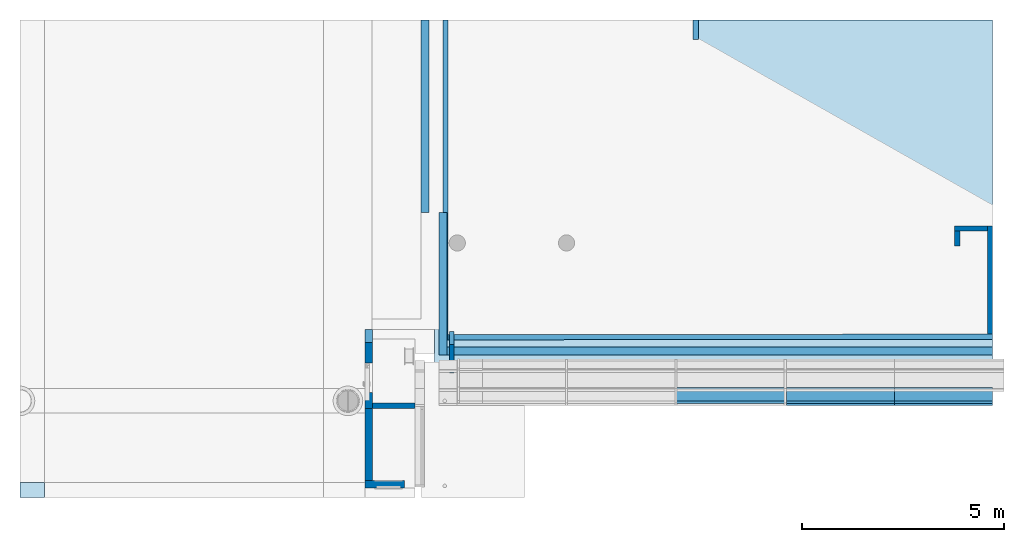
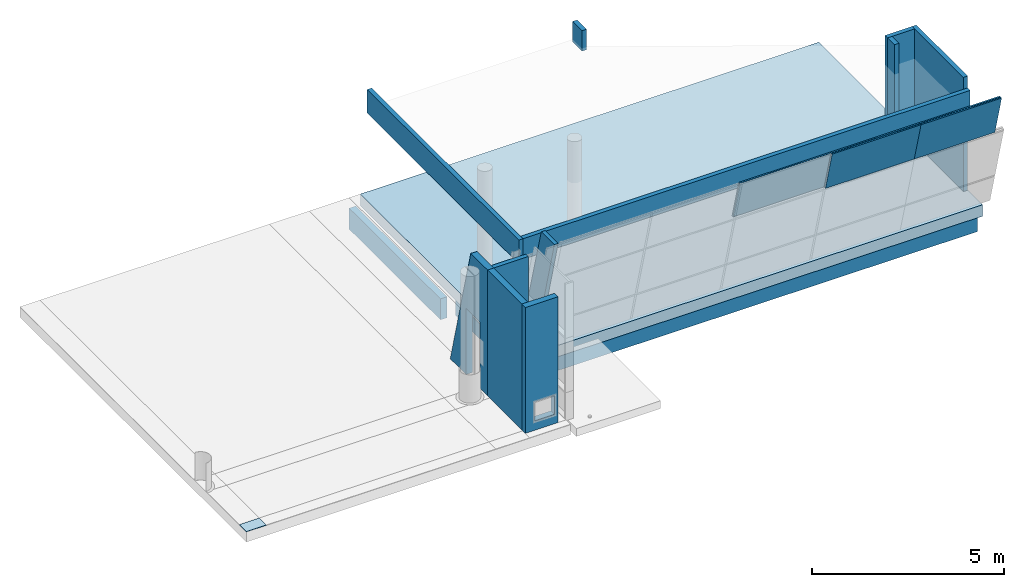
# One storey, part 4 of 10: 14 walls, 5 plates, 2 slabs, 2 elements without a shape of their own.
"""IFC2X3 building model written with IfcOpenShell, lengths in millimetres."""

from ifc_helpers import new_model, entity, si_unit, converted_unit, derived_unit, direction, frame, frame_2d, origin, origin_with_axes, place, context, subcontext, project, spatial, polyline, rectangle, outline, extrude, faceted_brep, material, layer, layer_set, layer_usage, type_object, element, aggregate, save


model = new_model("IFC2X3")

# Units and contexts
model_context = context("Model", 3, precision=0.01, world=origin(), true_north=direction((6.12303176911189e-17, 1.0)))
plan_context = context("Plan", 3, precision=1e-05, world=origin_with_axes())
body_context = subcontext(model_context, "Body", "Model", "MODEL_VIEW")
ifc_project = project(units=[converted_unit("PLANEANGLEUNIT", "DEGREE", entity("IfcPositiveLengthMeasure", 0.0174532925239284), si_unit("PLANEANGLEUNIT", "RADIAN"), dimensions=[0, 0, 0, 0, 0, 0, 0]), si_unit("AREAUNIT", "SQUARE_METRE"), si_unit("LENGTHUNIT", "METRE", prefix="MILLI"), si_unit("MASSUNIT", "GRAM", prefix="KILO"), si_unit("POWERUNIT", "WATT"), si_unit("PRESSUREUNIT", "PASCAL"), si_unit("FORCEUNIT", "NEWTON", prefix="KILO"), si_unit("ELECTRICVOLTAGEUNIT", "VOLT"), si_unit("ELECTRICCURRENTUNIT", "AMPERE"), si_unit("THERMODYNAMICTEMPERATUREUNIT", "DEGREE_CELSIUS"), si_unit("TIMEUNIT", "SECOND"), si_unit("VOLUMEUNIT", "CUBIC_METRE"), derived_unit("LINEARVELOCITYUNIT", [(si_unit("LENGTHUNIT", "METRE"), 1), (si_unit("TIMEUNIT", "SECOND"), -1)]), derived_unit("VOLUMETRICFLOWRATEUNIT", [(si_unit("VOLUMEUNIT", "CUBIC_METRE"), 1), (si_unit("TIMEUNIT", "SECOND"), -1)]), derived_unit("THERMALTRANSMITTANCEUNIT", [(si_unit("POWERUNIT", "WATT"), 1), (si_unit("THERMODYNAMICTEMPERATUREUNIT", "KELVIN"), -1), (si_unit("AREAUNIT", "SQUARE_METRE"), -1)]), derived_unit("SOUNDPRESSUREUNIT", [(si_unit("PRESSUREUNIT", "PASCAL"), 1)])], contexts=[model_context, plan_context])

# Site, building, storey
site_placement = place(None, frame((2314154.5009392, 1029894.10887124, 0.0), z_axis=(0.0, 0.0, 1.0), x_axis=(1.0, 0.0, 0.0)))
site = spatial("IfcSite", under=ifc_project, at=site_placement, Name="Default", CompositionType="ELEMENT")
building_placement = place(site_placement, origin_with_axes())
building = spatial("IfcBuilding", under=site, at=building_placement, CompositionType="ELEMENT")
storey_placement = place(building_placement, frame((0.0, 0.0, 9320.0), z_axis=(0.0, 0.0, 1.0), x_axis=(1.0, 0.0, 0.0)))
storey = spatial("IfcBuildingStorey", under=building, at=storey_placement, Name="H01 Hovedetasje", CompositionType="ELEMENT", Elevation=9320.0)

# Curtain wall, plates
curtain_wall_type_1 = type_object("IfcCurtainWallType", Name="Curtain System:1500 x 3000", PredefinedType="NOTDEFINED")
curtain_wall_1_placement = place(storey_placement, frame((0.0, 0.0, -9320.0), z_axis=(0.0, 0.0, 1.0), x_axis=(1.0, 0.0, 0.0)))
curtain_wall_1 = element("IfcCurtainWall", 1, at=curtain_wall_1_placement, inside=storey, type_object=curtain_wall_type_1, Name="Curtain System:1500 x 3000", ObjectType="Curtain System:1500 x 3000")
ifc_material_1 = material(Name="Glass 01_jb")
plate_type_1 = type_object("IfcPlateType", Name="System Panel:Glazed-generic", PredefinedType="CURTAIN_PANEL", material=ifc_material_1)
plate_1_placement = place(curtain_wall_1_placement, frame((116210.333947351, -39685.7273894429, 12025.9276489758), z_axis=(0.0, -0.260890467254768, 0.965368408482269), x_axis=(-1.0, 0.0, 0.0)))
plate_1 = element("IfcPlate", 2, at=plate_1_placement, type_object=plate_type_1, Name="System Panel:Glazed-generic", ObjectType="System Panel:Glazed-generic", context=body_context, shape_type="Brep", body=[
    faceted_brep([(-1074.976950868, -15.5000000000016, 0.0), (-1074.976950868, -15.5000000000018, 1336.30698647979), (1350.00000000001, -15.5000000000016, 1336.30698647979), (1350.00000000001, -15.5000000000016, 0.0), (1350.00000000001, 32.4999999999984, 1349.27896931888), (1350.00000000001, 32.4999999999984, 0.0), (-1074.976950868, 32.4999999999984, 1349.27896931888), (-1074.976950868, 32.4999999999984, 0.0)], [[[0, 1, 2, 3]], [[2, 4, 5, 3]], [[4, 6, 7, 5]], [[7, 0, 3, 5]], [[1, 0, 7, 6]], [[6, 4, 2, 1]]], orient=[[False], [False], [False], [False], [False], [False]]),
])
plate_type_2 = type_object("IfcPlateType", Name="System Panel:Glazed-generic", PredefinedType="CURTAIN_PANEL", material=ifc_material_1)
plate_2_placement = place(curtain_wall_1_placement, frame((113524.333947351, -39685.7273894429, 12025.9276489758), z_axis=(0.0, -0.260890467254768, 0.965368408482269), x_axis=(-1.0, 0.0, 0.0)))
plate_2 = element("IfcPlate", 3, at=plate_2_placement, type_object=plate_type_2, Name="System Panel:Glazed-generic", ObjectType="System Panel:Glazed-generic", context=body_context, shape_type="Brep", body=[
    faceted_brep([(-1336.0, -15.5000000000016, 1336.30698647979), (1336.0, -15.5000000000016, 1336.30698647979), (1336.0, -15.5000000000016, 0.0), (-1336.0, -15.5000000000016, 0.0), (1336.0, 32.4999999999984, 1349.27896931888), (1336.0, 32.4999999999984, 0.0), (-1336.0, 32.4999999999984, 1349.27896931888), (-1336.0, 32.4999999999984, 0.0)], [[[0, 1, 2, 3]], [[1, 4, 5, 2]], [[4, 6, 7, 5]], [[6, 0, 3, 7]], [[3, 2, 5, 7]], [[6, 4, 1, 0]]], orient=[[False], [False], [False], [False], [False], [False]]),
])
aggregate(curtain_wall_1, [plate_1, plate_2])

curtain_wall_type_2 = type_object("IfcCurtainWallType", Name="Curtain System:2700 x 1790", PredefinedType="NOTDEFINED")
curtain_wall_2_placement = place(storey_placement, frame((0.0, 0.0, -9320.0), z_axis=(0.0, 0.0, 1.0), x_axis=(1.0, 0.0, 0.0)))
curtain_wall_2 = element("IfcCurtainWall", 4, at=curtain_wall_2_placement, inside=storey, type_object=curtain_wall_type_2, Name="Curtain System:2700 x 1790", ObjectType="Curtain System:2700 x 1790")
plate_type_3 = type_object("IfcPlateType", Name="System Panel:Glazed-generic", PredefinedType="CURTAIN_PANEL", material=ifc_material_1)
plate_3_placement = place(curtain_wall_2_placement, frame((116213.567305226, -39630.5733004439, 12048.1765336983), z_axis=(0.0, -0.260890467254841, 0.965368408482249), x_axis=(-1.0, 0.0, 0.0)))
plate_3 = element("IfcPlate", 5, at=plate_3_placement, type_object=plate_type_3, Name="System Panel:Glazed-generic", ObjectType="System Panel:Glazed-generic", context=body_context, shape_type="Brep", body=[
    faceted_brep([(-1071.74359299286, -15.5000000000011, 0.0), (-1071.74359299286, -15.5000000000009, 1313.25994606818), (1350.00000000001, -15.5000000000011, 1313.25994606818), (1350.00000000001, -15.5000000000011, 0.0), (1350.00000000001, 32.4999999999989, 1326.23192890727), (1350.00000000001, 32.4999999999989, 0.0), (-1071.74359299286, 32.4999999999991, 1326.23192890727), (-1071.74359299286, 32.4999999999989, 0.0)], [[[0, 1, 2, 3]], [[2, 4, 5, 3]], [[4, 6, 7, 5]], [[7, 0, 3, 5]], [[1, 0, 7, 6]], [[6, 4, 2, 1]]], orient=[[False], [False], [False], [False], [False], [False]]),
])
plate_type_4 = type_object("IfcPlateType", Name="System Panel:Glazed-generic", PredefinedType="CURTAIN_PANEL", material=ifc_material_1)
plate_4_placement = place(curtain_wall_2_placement, frame((113525.700626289, -39630.5733004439, 12048.1765336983), z_axis=(0.0, -0.260890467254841, 0.965368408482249), x_axis=(-1.0, 0.0, 0.0)))
plate_4 = element("IfcPlate", 6, at=plate_4_placement, type_object=plate_type_4, Name="System Panel:Glazed-generic", ObjectType="System Panel:Glazed-generic", context=body_context, shape_type="Brep", body=[
    faceted_brep([(-1337.86667893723, -15.5000000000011, 1313.25994606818), (1337.86667893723, -15.5000000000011, 1313.25994606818), (1337.86667893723, -15.5000000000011, 0.0), (-1337.86667893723, -15.5000000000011, 0.0), (1337.86667893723, 32.4999999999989, 1326.23192890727), (1337.86667893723, 32.4999999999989, 0.0), (-1337.86667893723, 32.4999999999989, 1326.23192890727), (-1337.86667893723, 32.4999999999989, 0.0)], [[[0, 1, 2, 3]], [[1, 4, 5, 2]], [[4, 6, 7, 5]], [[6, 0, 3, 7]], [[3, 2, 5, 7]], [[6, 4, 1, 0]]], orient=[[False], [False], [False], [False], [False], [False]]),
])
plate_type_5 = type_object("IfcPlateType", Name="System Panel:Glazed-generic", PredefinedType="CURTAIN_PANEL", material=ifc_material_1)
plate_5_placement = place(curtain_wall_2_placement, frame((110814.083947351, -39630.5733004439, 12048.1765336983), z_axis=(0.0, -0.260890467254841, 0.965368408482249), x_axis=(-1.0, 0.0, 0.0)))
plate_5 = element("IfcPlate", 7, at=plate_5_placement, type_object=plate_type_5, Name="System Panel:Glazed-generic", ObjectType="System Panel:Glazed-generic", context=body_context, shape_type="Brep", body=[
    faceted_brep([(-1373.75000000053, -15.5000000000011, 1313.25994606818), (1373.75000000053, -15.5000000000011, 1313.25994606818), (1373.75000000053, -15.5000000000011, 0.0), (-1373.75000000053, -15.5000000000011, 0.0), (1373.75000000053, 32.4999999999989, 1326.23192890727), (1373.75000000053, 32.4999999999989, 0.0), (-1373.75000000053, 32.4999999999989, 1326.23192890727), (-1373.75000000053, 32.4999999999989, 0.0)], [[[0, 1, 2, 3]], [[1, 4, 5, 2]], [[4, 6, 7, 5]], [[6, 0, 3, 7]], [[3, 2, 5, 7]], [[6, 4, 1, 0]]], orient=[[False], [False], [False], [False], [False], [False]]),
])
aggregate(curtain_wall_2, [plate_3, plate_4, plate_5])

# Slabs
ifc_material_2 = material(Name="Værnes_Flis 02 Polert")
ifc_layer_1 = layer(ifc_material_2, 10.0)
ifc_material_3 = material(Name="Værnes_Mørtel")
ifc_layer_2 = layer(ifc_material_3, 2.0)
ifc_layer_set_1 = layer_set([ifc_layer_1, ifc_layer_2], Name="Floor:VÆRNES - GULV 02 - POLERT FLIS")
slab_type_1 = type_object("IfcSlabType", Name="Floor:VÆRNES - GULV 02 - POLERT FLIS", PredefinedType="FLOOR", material=ifc_layer_set_1)
slab_1_placement = place(storey_placement, origin_with_axes())
element("IfcSlab", 8, at=slab_1_placement, inside=storey, type_object=slab_type_1, Name="Floor:VÆRNES - GULV 02 - POLERT FLIS", ObjectType="Floor:VÆRNES - GULV 02 - POLERT FLIS", PredefinedType="FLOOR", context=body_context, shape_type="Brep", body=[
    faceted_brep([(93260.3339473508, -42335.391029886, -12.0000000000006), (93260.3339473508, -42335.391029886, -2.27373675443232e-13), (93860.3339473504, -42335.3910298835, 0.0), (93860.3339473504, -42335.3910298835, -12.0000000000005), (93260.3339473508, -41968.7179587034, 0.0), (93260.3339473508, -41968.7179587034, -12.0000000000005), (93860.3339473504, -41968.7179587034, -12.0000000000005), (93860.3339473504, -41968.7179587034, 0.0)], [[[0, 1, 2, 3]], [[4, 5, 6, 7]], [[7, 6, 3, 2]], [[1, 4, 7, 2]], [[5, 0, 3, 6]], [[0, 5, 4, 1]]], orient=[[False], [False], [False], [False], [False], [False]]),
])
ifc_material_4 = material(Name="Værnes_Flis Existing_Pink")
ifc_layer_3 = layer(ifc_material_4, 12.0)
ifc_material_5 = material(Name="Værnes_Betong")
ifc_layer_4 = layer(ifc_material_5, 350.0)
ifc_layer_set_2 = layer_set([ifc_layer_3, ifc_layer_4], Name="Floor:Værnes Betong 350mm")
slab_type_2 = type_object("IfcSlabType", Name="Floor:Værnes Betong 350mm", PredefinedType="FLOOR", material=ifc_layer_set_2)
slab_2_placement = place(storey_placement, origin_with_axes())
element("IfcSlab", 9, at=slab_2_placement, inside=storey, type_object=slab_type_2, Name="Floor:Værnes Betong 350mm", ObjectType="Floor:Værnes Betong 350mm", PredefinedType="FLOOR", context=body_context, shape_type="Brep", body=[
    faceted_brep([(117285.310898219, -39068.8979612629, 0.0), (117285.310898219, -39068.8979612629, -362.0), (103494.328195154, -39068.8979612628, -362.0), (103494.328195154, -39068.8979612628, 0.0), (103494.328195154, -30542.2006770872, -362.0), (103494.328195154, -30542.2006770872, 0.0), (117285.310898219, -30542.2006770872, -2.27373675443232e-13), (117285.310898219, -30542.2006770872, -362.0)], [[[0, 1, 2, 3]], [[4, 5, 3, 2]], [[5, 6, 0, 3]], [[1, 7, 4, 2]], [[7, 1, 0, 6]], [[6, 5, 4, 7]]], orient=[[False], [False], [False], [False], [False], [False]]),
])

# Walls
ifc_material_6 = material(Name="Existing - Bridget key")
ifc_layer_5 = layer(ifc_material_6, 200.0)
ifc_layer_set_3 = layer_set([ifc_layer_5], Name="Basic Wall:V_Existing 200mm Betong")
wall_type_1 = type_object("IfcWallType", Name="Basic Wall:V_Existing 200mm Betong", PredefinedType="STANDARD", material=ifc_layer_set_3)
wall_1_placement = place(storey_placement, frame((103260.333947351, -35299.4514097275, -3042.61215065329), z_axis=(0.0, 0.0, 1.0), x_axis=(0.0, 1.0, 0.0)))
element("IfcWall", 10, at=wall_1_placement, inside=storey, type_object=wall_type_1, Name="Basic Wall:V_Existing 200mm Betong", ObjectType="Basic Wall:V_Existing 200mm Betong", context=body_context, shape_type="Brep", body=[
    faceted_brep([(0.0, 99.9999999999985, 2042.61215065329), (4757.25073264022, 99.9999999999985, 2042.61215065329), (4757.25073264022, 99.9999999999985, 2710.61215065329), (0.0, 99.9999999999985, 2710.61215065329), (0.0, -99.9999999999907, 2042.61215065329), (0.0, -99.9999999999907, 2710.61215065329), (4757.25073264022, -99.9999999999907, 2710.61215065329), (4757.25073264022, -99.9999999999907, 2042.61215065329)], [[[0, 1, 2, 3]], [[4, 0, 3, 5]], [[6, 7, 4, 5]], [[2, 6, 5, 3]], [[7, 6, 2, 1]], [[1, 0, 4, 7]]], orient=[[False], [False], [False], [False], [False], [False]]),
])
wall_2_placement = place(storey_placement, frame((103710.333947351, -38819.4514097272, -3070.0), z_axis=(0.0, 0.0, 1.0), x_axis=(0.0, 1.0, 0.0)))
element("IfcWall", 11, at=wall_2_placement, inside=storey, type_object=wall_type_1, Name="Basic Wall:V_Existing 200mm Betong", ObjectType="Basic Wall:V_Existing 200mm Betong", context=body_context, shape_type="Brep", body=[
    faceted_brep([(3519.99999999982, 99.9999999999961, 2070.0), (3519.99999999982, -99.9999999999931, 2070.0), (3519.99999999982, -99.9999999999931, 2708.0), (3519.99999999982, 99.9999999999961, 2708.0), (0.0, 99.9999999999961, 2070.0), (0.0, 99.9999999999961, 2708.0), (0.0, -99.9999999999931, 2070.0), (0.0, -99.9999999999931, 2708.0)], [[[0, 1, 2, 3]], [[4, 0, 3, 5]], [[6, 4, 5, 7]], [[1, 6, 7, 2]], [[3, 2, 7, 5]], [[4, 6, 1, 0]]], orient=[[False], [False], [False], [False], [False], [False]]),
])
wall_3_placement = place(storey_placement, frame((137860.33394735, -38719.4514097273, -3070.0), z_axis=(0.0, 0.0, 1.0), x_axis=(-1.0, 0.0, 0.0)))
element("IfcWall", 12, at=wall_3_placement, inside=storey, type_object=wall_type_1, Name="Basic Wall:V_Existing 200mm Betong", ObjectType="Basic Wall:V_Existing 200mm Betong", context=body_context, shape_type="Brep", body=[
    faceted_brep([(34050.0, 99.9999999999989, 2070.0), (34050.0, -99.9999999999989, 2070.0), (34050.0, -99.9999999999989, 2820.0), (34050.0, 99.9999999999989, 2820.0), (20575.0230491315, 99.9999999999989, 2820.0), (20575.0230491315, 99.9999999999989, 2070.0), (20575.0230491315, -99.9999999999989, 2070.0), (20575.0230491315, -99.9999999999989, 2820.0)], [[[0, 1, 2, 3]], [[4, 5, 0, 3]], [[1, 6, 7, 2]], [[7, 4, 3, 2]], [[5, 4, 7, 6]], [[6, 1, 0, 5]]], orient=[[False], [False], [False], [False], [False], [False]]),
])
ifc_material_7 = material(Name="Værnes_Flis 05")
ifc_layer_6 = layer(ifc_material_7, 10.0)
ifc_material_8 = material(Name="Værnes_Gipsplate")
ifc_layer_7 = layer(ifc_material_8, 13.0)
ifc_layer_8 = layer(ifc_material_8, 13.0)
ifc_material_9 = material(Name="Værnes_Stålstender")
ifc_layer_9 = layer(ifc_material_9, 150.0)
ifc_layer_set_4 = layer_set([ifc_layer_6, ifc_layer_7, ifc_layer_8, ifc_layer_9], Name="Basic Wall:242_Værnes Innervegg 77_150mm")
wall_type_2 = type_object("IfcWallType", Name="Basic Wall:242_Værnes Innervegg 77_150mm", PredefinedType="STANDARD", material=ifc_layer_set_4)
wall_4_placement = place(storey_placement, frame((101877.336509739, -41918.2714104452, 0.0), z_axis=(0.0, 0.0, 1.0), x_axis=(0.0, 1.0, 0.0)))
element("IfcWall", 13, at=wall_4_placement, inside=storey, type_object=wall_type_2, Name="Basic Wall:242_Værnes Innervegg 77_150mm", ObjectType="Basic Wall:242_Værnes Innervegg 77_150mm", context=body_context, shape_type="Brep", body=[
    faceted_brep([(1784.6826471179, -92.9999999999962, 4000.0), (1784.6826471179, 92.9999999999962, 4000.0), (1784.6826471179, 92.9999999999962, 0.0), (1784.6826471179, -92.9999999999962, 0.0), (-1.13686837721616e-13, 92.9999999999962, 4000.0), (-1.13686837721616e-13, 92.9999999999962, 0.0), (-1.13686837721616e-13, -92.9999999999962, 4000.0), (-1.13686837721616e-13, -92.9999999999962, 0.0)], [[[0, 1, 2, 3]], [[1, 4, 5, 2]], [[4, 6, 7, 5]], [[6, 0, 3, 7]], [[3, 2, 5, 7]], [[6, 4, 1, 0]]], orient=[[False], [False], [False], [False], [False], [False]]),
])
wall_5_placement = place(storey_placement, frame((101877.336509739, -40133.5887633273, 0.0), z_axis=(0.0, 0.0, 1.0), x_axis=(0.0, 1.0, 0.0)))
element("IfcWall", 14, at=wall_5_placement, inside=storey, type_object=wall_type_2, Name="Basic Wall:242_Værnes Innervegg 77_150mm", ObjectType="Basic Wall:242_Værnes Innervegg 77_150mm", context=body_context, shape_type="Brep", body=[
    faceted_brep([(870.980430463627, 92.9999999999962, 4000.0), (0.0, 92.9999999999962, 4000.0), (0.0, 92.9999999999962, 0.0), (395.320634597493, 93.0000000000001, 0.0), (395.320634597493, 93.0000000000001, 2100.00000000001), (1115.32063459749, 93.0000000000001, 2100.00000000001), (1115.32063459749, 93.0000000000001, 0.0), (1942.77720018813, 92.9999999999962, 0.0), (0.0, -92.9999999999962, 4000.0), (0.0, -92.9999999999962, 0.0), (870.980430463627, -92.9999999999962, 4000.0), (1942.77720018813, -92.9999999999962, 0.0), (1115.32063459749, -93.0, 0.0), (1115.32063459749, -93.0, 2100.00000000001), (395.320634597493, -93.0, 2100.00000000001), (395.320634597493, -93.0, 0.0)], [[[0, 1, 2, 3, 4, 5, 6, 7]], [[1, 8, 9, 2]], [[8, 10, 11, 12, 13, 14, 15, 9]], [[15, 3, 2, 9]], [[6, 12, 11, 7]], [[10, 0, 7, 11]], [[14, 4, 3, 15]], [[13, 5, 4, 14]], [[12, 6, 5, 13]], [[10, 8, 1, 0]]], orient=[[False], [False], [False], [False], [False], [False], [False], [False], [False], [False]]),
])
wall_6_placement = place(storey_placement, frame((101784.336509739, -42011.2714104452, 0.0), z_axis=(0.0, 0.0, 1.0), x_axis=(1.0, 0.0, 0.0)))
element("IfcWall", 15, at=wall_6_placement, inside=storey, type_object=wall_type_2, Name="Basic Wall:242_Værnes Innervegg 77_150mm", ObjectType="Basic Wall:242_Værnes Innervegg 77_150mm", context=body_context, shape_type="Brep", body=[
    faceted_brep([(977.749085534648, -92.9999999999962, 4000.0), (977.749085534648, 92.9999999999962, 4000.0), (977.749085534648, 92.9999999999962, 0.0), (977.749085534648, -92.9999999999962, 0.0), (0.0, 92.9999999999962, 4000.0), (0.0, 92.9999999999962, 0.0), (277.749085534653, 93.0, 899.267442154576), (877.749085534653, 93.0, 899.267442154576), (877.749085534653, 93.0, 299.267442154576), (277.749085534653, 93.0, 299.267442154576), (0.0, -92.9999999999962, 4000.0), (0.0, -92.9999999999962, 0.0), (877.749085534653, -93.0000000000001, 899.267442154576), (277.749085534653, -93.0000000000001, 899.267442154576), (277.749085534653, -93.0000000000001, 299.267442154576), (877.749085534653, -93.0000000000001, 299.267442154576)], [[[0, 1, 2, 3]], [[1, 4, 5, 2], [6, 7, 8, 9]], [[4, 10, 11, 5]], [[10, 0, 3, 11], [12, 13, 14, 15]], [[3, 2, 5, 11]], [[8, 15, 14, 9]], [[7, 12, 15, 8]], [[6, 13, 12, 7]], [[9, 14, 13, 6]], [[10, 4, 1, 0]]], orient=[[False], [False, False], [False], [False, False], [False], [False], [False], [False], [False], [False]]),
])
ifc_material_10 = material(Name="Værnes_Malt")
ifc_layer_10 = layer(ifc_material_10, 2.0)
ifc_layer_11 = layer(ifc_material_8, 13.0)
ifc_layer_12 = layer(ifc_material_8, 13.0)
ifc_layer_13 = layer(ifc_material_9, 100.0)
ifc_layer_set_5 = layer_set([ifc_layer_10, ifc_layer_11, ifc_layer_12, ifc_layer_13], Name="Basic Wall:242_Værnes Innervegg 16_100mm")
wall_type_3 = type_object("IfcWallType", Name="Basic Wall:242_Værnes Innervegg 16_100mm", PredefinedType="STANDARD", material=ifc_layer_set_5)
wall_7_placement = place(storey_placement, frame((101970.336509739, -40069.5887633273, 0.0), z_axis=(0.0, 0.0, 1.0), x_axis=(1.0, 0.0, 0.0)))
element("IfcWall", 16, at=wall_7_placement, inside=storey, type_object=wall_type_3, Name="Basic Wall:242_Værnes Innervegg 16_100mm", ObjectType="Basic Wall:242_Værnes Innervegg 16_100mm", context=body_context, shape_type="Brep", body=[
    faceted_brep([(1041.74908553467, -64.0000000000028, 4000.0), (1041.74908553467, 64.0000000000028, 4000.0), (1041.74908553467, 64.0000000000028, 0.0), (1041.74908553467, -64.0000000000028, 0.0), (0.0, 64.0000000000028, 4000.0), (0.0, 64.0000000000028, 0.0), (0.0, -64.0000000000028, 4000.0), (0.0, -64.0000000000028, 0.0)], [[[0, 1, 2, 3]], [[1, 4, 5, 2]], [[4, 6, 7, 5]], [[6, 0, 3, 7]], [[3, 2, 5, 7]], [[6, 4, 1, 0]]], orient=[[False], [False], [False], [False], [False], [False]]),
])
ifc_layer_14 = layer(ifc_material_10, 2.0)
ifc_layer_15 = layer(ifc_material_8, 13.0)
ifc_material_11 = material(Name="Værnes_Stålstender, isolert")
ifc_layer_16 = layer(ifc_material_11, 100.0)
ifc_material_12 = material(Name="Værnes_Gipsplate waterproof")
ifc_layer_17 = layer(ifc_material_12, 13.0)
ifc_layer_18 = layer(ifc_material_10, 2.0)
ifc_layer_set_6 = layer_set([ifc_layer_14, ifc_layer_15, ifc_layer_16, ifc_layer_17, ifc_layer_18], Name="Basic Wall:242_Værnes Innervegg 17_100mm")
ifc_layer_usage = layer_usage(ifc_layer_set_6, "AXIS2", "NEGATIVE", 65.0)
wall_type_4 = type_object("IfcWallType", Name="Basic Wall:242_Værnes Innervegg 17_100mm", PredefinedType="STANDARD", material=ifc_layer_set_6)
wall_8_placement = place(storey_placement, frame((103833.878790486, -38376.9411193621, 2600.0), z_axis=(0.0, 0.0, 1.0), x_axis=(0.99999963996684, 0.000848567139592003, 0.0)))
element("IfcWallStandardCase", 17, at=wall_8_placement, inside=storey, type_object=wall_type_4, material=ifc_layer_usage, Name="Basic Wall:242_Værnes Innervegg 17_100mm", ObjectType="Basic Wall:242_Værnes Innervegg 17_100mm", context=body_context, shape_type="SweptSolid", body=[
    extrude(outline(polyline([(13451.3817938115, -65.0), (13451.4921075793, 65.0), (0.110313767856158, 65.0), (0.0, -65.0), (13451.3817938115, -65.0)])), origin(), (0.0, 0.0, 1.0), 652.406399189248),
])
wall_9_placement = place(storey_placement, frame((117220.310898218, -38300.6369623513, 0.0), z_axis=(0.0, 0.0, 1.0), x_axis=(0.0, 1.0, 0.0)))
element("IfcWallStandardCase", 18, at=wall_9_placement, inside=storey, type_object=wall_type_4, material=ifc_layer_usage, Name="Basic Wall:242_Værnes Innervegg 17_100mm", ObjectType="Basic Wall:242_Værnes Innervegg 17_100mm", context=body_context, shape_type="SweptSolid", body=[
    extrude(outline(polyline([(2675.06621804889, -65.0), (2675.06621804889, 65.0), (2545.06621804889, 65.0), (0.0, 65.0), (0.110313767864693, -65.0), (2675.06621804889, -65.0)])), origin(), (0.0, 0.0, 1.0), 3630.0),
])
wall_10_placement = place(storey_placement, frame((117155.310898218, -35690.5707443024, 0.0), z_axis=(0.0, 0.0, 1.0), x_axis=(-1.0, 0.0, 0.0)))
element("IfcWallStandardCase", 19, at=wall_10_placement, inside=storey, type_object=wall_type_4, material=ifc_layer_usage, Name="Basic Wall:242_Værnes Innervegg 17_100mm", ObjectType="Basic Wall:242_Værnes Innervegg 17_100mm", context=body_context, shape_type="SweptSolid", body=[
    extrude(rectangle(XDim=809.07082253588, YDim=129.999999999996, at=frame_2d((404.53541126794, 0.0), x_axis=(-1.0, 0.0))), origin(), (0.0, 0.0, 1.0), 3630.0),
])
wall_11_placement = place(storey_placement, frame((116411.240075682, -35755.5707443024, 0.0), z_axis=(0.0, 0.0, 1.0), x_axis=(0.0, -1.0, 0.0)))
element("IfcWallStandardCase", 20, at=wall_11_placement, inside=storey, type_object=wall_type_4, material=ifc_layer_usage, Name="Basic Wall:242_Værnes Innervegg 17_100mm", ObjectType="Basic Wall:242_Værnes Innervegg 17_100mm", context=body_context, shape_type="SweptSolid", body=[
    extrude(rectangle(XDim=362.530975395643, YDim=130.000000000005, at=frame_2d((181.265487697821, 0.0), x_axis=(-1.0, 0.0))), origin(), (0.0, 0.0, 1.0), 3630.0),
])
wall_12_placement = place(storey_placement, frame((109948.553038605, -31028.4852570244, 2600.0), z_axis=(0.0, 0.0, 1.0), x_axis=(0.0, 1.0, 0.0)))
element("IfcWall", 21, at=wall_12_placement, inside=storey, type_object=wall_type_4, Name="Basic Wall:242_Værnes Innervegg 17_100mm", ObjectType="Basic Wall:242_Værnes Innervegg 17_100mm", context=body_context, shape_type="Brep", body=[
    faceted_brep([(486.284579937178, -65.0, 652.406399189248), (486.284579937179, -65.0, 0.0), (0.0, -65.0, 0.0), (0.0, -65.0, 652.406399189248), (486.284579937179, 65.0, 0.0), (486.284579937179, 65.0, 652.406399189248), (0.0, 65.0, 652.406399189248), (0.0, 65.0, 0.0)], [[[0, 1, 2, 3]], [[4, 5, 6, 7]], [[7, 6, 3, 2]], [[1, 4, 7, 2]], [[5, 0, 3, 6]], [[5, 4, 1, 0]]], orient=[[False], [False], [False], [False], [False], [False]]),
])
wall_13_placement = place(storey_placement, frame((103768.93394735, -24862.0514097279, 2500.0), z_axis=(0.0, 0.0, 1.0), x_axis=(0.0, -1.0, 0.0)))
element("IfcWall", 22, at=wall_13_placement, inside=storey, type_object=wall_type_4, Name="Basic Wall:242_Værnes Innervegg 17_100mm", ObjectType="Basic Wall:242_Værnes Innervegg 17_100mm", context=body_context, shape_type="Brep", body=[
    faceted_brep([(5680.14926735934, -65.0, 0.0), (5680.14926735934, -65.0, 752.406399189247), (13580.0, -65.0, 752.406399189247), (13580.0, -65.0, 0.0), (13579.8896862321, 65.0, 752.406399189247), (13579.8896862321, 65.0, 0.0), (5680.14926735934, 65.0, 752.406399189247), (5680.14926735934, 65.0, 0.0)], [[[0, 1, 2, 3]], [[3, 2, 4, 5]], [[6, 7, 5, 4]], [[7, 0, 3, 5]], [[1, 6, 4, 2]], [[7, 6, 1, 0]]], orient=[[False], [False], [False], [False], [False], [False]]),
])
ifc_layer_19 = layer(ifc_material_10, 2.0)
ifc_layer_20 = layer(ifc_material_12, 13.0)
ifc_material_13 = material(Name="Værnes_Stålstender, uisolert")
ifc_layer_21 = layer(ifc_material_13, 100.0)
ifc_layer_set_7 = layer_set([ifc_layer_19, ifc_layer_20, ifc_layer_21], Name="Basic Wall:242_Værnes Innervegg 15_100mm")
wall_type_5 = type_object("IfcWallType", Name="Basic Wall:242_Værnes Innervegg 15_100mm", PredefinedType="STANDARD", material=ifc_layer_set_7)
wall_14_placement = place(storey_placement, frame((103923.833946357, -38231.7385488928, 0.0), z_axis=(0.0, 0.0, 1.0), x_axis=(0.0, -1.0, 0.0)))
element("IfcWall", 23, at=wall_14_placement, inside=storey, type_object=wall_type_5, Name="Basic Wall:242_Værnes Innervegg 15_100mm", ObjectType="Basic Wall:242_Værnes Innervegg 15_100mm", context=body_context, shape_type="Brep", body=[
    faceted_brep([(1776.37484502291, 57.4999999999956, 4000.0), (1098.95646246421, 57.4999999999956, 4000.0), (0.0, 57.4999999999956, 0.0), (708.978821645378, 57.4999999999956, 0.0), (1098.95646246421, -57.4999999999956, 4000.0), (1776.37484502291, -57.4999999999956, 4000.0), (708.978821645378, -57.4999999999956, 0.0), (0.0, -57.4999999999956, 0.0)], [[[0, 1, 2, 3]], [[4, 5, 6, 7]], [[3, 2, 7, 6]], [[1, 4, 7, 2]], [[5, 0, 3, 6]], [[5, 4, 1, 0]]], orient=[[False], [False], [False], [False], [False], [False]]),
])

save(model, "model.ifc")
